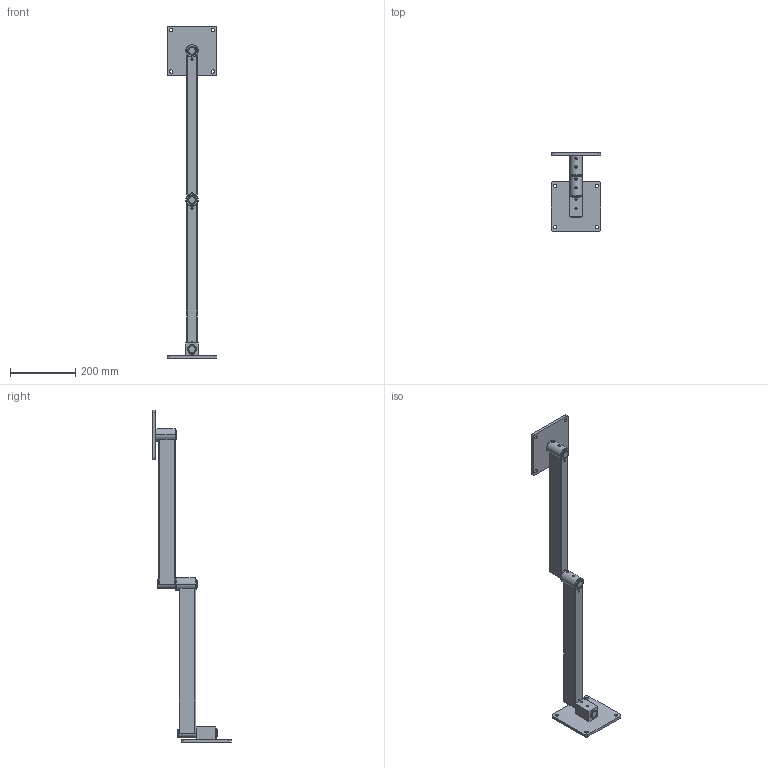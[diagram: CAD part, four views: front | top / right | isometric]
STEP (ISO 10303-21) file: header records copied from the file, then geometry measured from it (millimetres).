
FILE_DESCRIPTION (( 'STEP AP203' ), '1' );
FILE_NAME ('70-0301-00 REV AA, 36in RIGID SYSTEM, WALL MOUNT, PIVOT PLATE - EXTENDED.STEP', '2025-07-14T22:27:17', ( '' ), ( '' ), 'SwSTEP 2.0', 'SolidWorks 2025', '' );
FILE_SCHEMA (( 'CONFIG_CONTROL_DESIGN' ));
Length unit declared in the file: inch
Products named in the file (15): 007-036-00, SHSS, 1''4-28, .25L_007-036-00; 016-008-00, OILITE PLUS BEARING, 0.876 id x 1.002 od x 1.25 lg; 016-007-00, OILITE PLUS BEARING, 0.876 id x 1.002 od x 0.75 lg; 11-0017-99 REV AA, PLATE, 6X6_Laser; 70-0301-00 REV AA, 36in RIGID SYSTEM, WALL MOUNT, PIVOT PLATE - EXTENDED; 010-012-00, RETAINING RING, EXTERNAL, .875in SHAFT; 70-0106-00 REV AA, PIVOT PLATE; 71-0018-RX REV AA, BLOCK, WALL MOUNT; 71-0193-RX REV AA, PIN, PIVOT PLATE; 71-2113-RX REV AA, HOUSING, BEARING, TALL, 1.5OD_MACHINE; 71-0022-RX REV AA, PIN, RIGID SECTION; 70-0016-00 REV AA, HD WALL MOUNT; 70-1018-00 REV AA, 18in RIGID SECTION; 71-1018-RX REV AA, HOUSING, 18in RIGID; 71-0122-RX REV AA, PLATE, PIVOT PLATE
Assembly tree (19 placements, depth 3):
  70-0301-00 REV AA, 36in RIGID SYSTEM, WALL MOUNT, PIVOT PLATE - EXTENDED
    70-0016-00 REV AA, HD WALL MOUNT
      11-0017-99 REV AA, PLATE, 6X6_Laser
      71-0018-RX REV AA, BLOCK, WALL MOUNT
      016-007-00, OILITE PLUS BEARING, 0.876 id x 1.002 od x 0.75 lg
      016-008-00, OILITE PLUS BEARING, 0.876 id x 1.002 od x 1.25 lg
      007-036-00, SHSS, 1''4-28, .25L_007-036-00
    70-1018-00 REV AA, 18in RIGID SECTION  x2
      71-1018-RX REV AA, HOUSING, 18in RIGID
      71-0022-RX REV AA, PIN, RIGID SECTION
      71-2113-RX REV AA, HOUSING, BEARING, TALL, 1.5OD_MACHINE
      016-007-00, OILITE PLUS BEARING, 0.876 id x 1.002 od x 0.75 lg
      016-008-00, OILITE PLUS BEARING, 0.876 id x 1.002 od x 1.25 lg
      010-012-00, RETAINING RING, EXTERNAL, .875in SHAFT
      007-036-00, SHSS, 1''4-28, .25L_007-036-00
    70-0106-00 REV AA, PIVOT PLATE
      71-0193-RX REV AA, PIN, PIVOT PLATE
      71-0122-RX REV AA, PLATE, PIVOT PLATE
      010-012-00, RETAINING RING, EXTERNAL, .875in SHAFT
Bounding box: 152.4 x 239.46 x 1017.74 mm (x, y, z)
Volume: 930446 mm3; surface area: 470005.1 mm2
Topology: 22 solids, 22 shells, 523 faces, 1239 edges, 756 vertices
Faces by surface type: cylinder 228, plane 130, cone 86, torus 70, bspline 9
Entity records: 10769 total; most frequent: CARTESIAN_POINT 2979, DIRECTION 1377, ORIENTED_EDGE 1194, EDGE_CURVE 597, AXIS2_PLACEMENT_3D 566, VERTEX_POINT 370, EDGE_LOOP 301, CIRCLE 291
